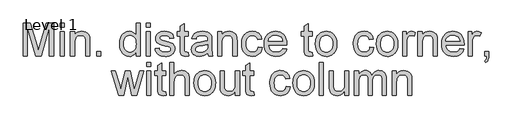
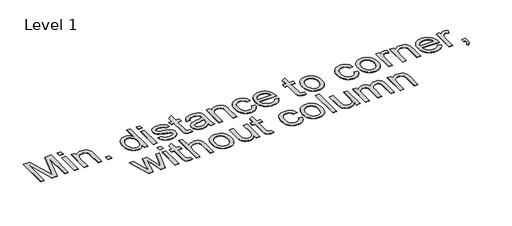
# One storey, part 57 of 80: 1 proxy.
"""IFC4 building model written with IfcOpenShell, lengths in millimetres."""

from ifc_helpers import new_model, si_unit, origin, origin_with_axes, place, context, project, spatial, polyline, outline, extrude, element, save

model = new_model("IFC4")

# Units and contexts
model_context = context("Model", 3, world=origin())
ifc_project = project(units=[si_unit("LENGTHUNIT", "METRE", prefix="MILLI")], contexts=[model_context])

# Site, building, storey
site = spatial("IfcSite", under=ifc_project)
building = spatial("IfcBuilding", under=site)
storey = spatial("IfcBuildingStorey", under=building, Name="Level 1", Elevation=0.0)

# Proxy
placement = place(None, origin())
element("IfcBuildingElementProxy", 1, Name="800mm Arial", ObjectType="800mm Arial", at=placement, inside=storey, context=model_context, shape_type="SweptSolid", body=[
    extrude(outline(polyline([(147445.3894532, 33134.3178049), (147445.3894532, 33933.7065032), (147617.3282821, 33933.7065032), (147780.875091, 33370.2701819), (147813.8576813, 33252.5867383), (147849.5725572, 33380.0283447), (148010.3870805, 33933.7065032), (148182.3259094, 33933.7065032), (148182.3259094, 33134.3178049), (148082.4023221, 33134.3178049), (148082.4023221, 33833.7829159), (147881.5793313, 33134.3178049), (147746.1360313, 33134.3178049), (147545.3130404, 33833.7829159), (147545.3130404, 33134.3178049), (147445.3894532, 33134.3178049)])), origin_with_axes(), (0.0, 0.0, 1.0), 5.0),
    extrude(outline(polyline([(148344.7017388, 33833.7829159), (148344.7017388, 33933.7065032), (148444.6253261, 33933.7065032), (148444.6253261, 33833.7829159), (148344.7017388, 33833.7829159)])), origin_with_axes(), (0.0, 0.0, 1.0), 5.0),
    extrude(outline(polyline([(148344.7017388, 33134.3178049), (148344.7017388, 33721.3688802), (148444.6253261, 33721.3688802), (148444.6253261, 33134.3178049), (148344.7017388, 33134.3178049)])), origin_with_axes(), (0.0, 0.0, 1.0), 5.0),
    extrude(outline(polyline([(148594.510707, 33134.3178049), (148594.510707, 33721.3688802), (148694.4342943, 33721.3688802), (148694.4342943, 33639.4003125), (148710.9194906, 33661.5391444), (148729.1489586, 33680.7261321), (148749.1226981, 33696.9612755), (148770.8407092, 33710.2445746), (148794.3029919, 33720.5760295), (148819.5095463, 33727.9556401), (148875.1554698, 33733.8593286), (148924.4097966, 33729.1022243), (148969.5169043, 33714.8309111), (149007.1346219, 33692.826254), (149033.9207789, 33664.8691175), (149052.0953571, 33631.0326879), (149063.8783387, 33591.3901514), (149067.8303947, 33553.4796889), (149069.1477467, 33494.7843395), (149069.1477467, 33134.3178049), (148969.2241594, 33134.3178049), (148969.2241594, 33481.3180748), (148966.3455013, 33532.9875469), (148957.7095272, 33569.72703), (148941.7793264, 33596.0496742), (148917.0179883, 33616.4686299), (148885.2795637, 33629.5689635), (148848.4181036, 33633.9357413), (148818.0763161, 33631.4840029), (148789.8935221, 33624.1287877), (148763.8697216, 33611.8700957), (148740.0049147, 33594.7079268), (148720.0677683, 33570.6906485), (148705.8269494, 33537.8666284), (148697.2824581, 33496.2358662), (148694.4342943, 33445.7983621), (148694.4342943, 33134.3178049), (148594.510707, 33134.3178049)])), origin_with_axes(), (0.0, 0.0, 1.0), 5.0),
    extrude(outline(polyline([(149231.523576, 33134.3178049), (149231.523576, 33234.2413922), (149331.4471633, 33234.2413922), (149331.4471633, 33134.3178049), (149231.523576, 33134.3178049)])), origin_with_axes(), (0.0, 0.0, 1.0), 5.0),
    extrude(outline(polyline([(150193.2881037, 33134.3178049), (150193.2881037, 33228.5816577), (150163.3915324, 33181.8766509), (150146.0738428, 33163.5282554), (150127.1765506, 33148.5159318), (150106.6996558, 33136.8396801), (150084.6431584, 33128.4995003), (150061.0070584, 33123.4953924), (150035.7913558, 33121.8273565), (150002.8087654, 33124.2425018), (149971.1923179, 33131.4879377), (149940.9420131, 33143.5636641), (149912.0578512, 33160.4696812), (149885.4424621, 33181.6997842), (149861.9984759, 33206.7477684), (149841.7258927, 33235.6136338), (149824.6247123, 33268.2973804), (149811.0486683, 33304.1769253), (149801.351494, 33342.6301857), (149795.5331894, 33383.6571615), (149793.5937545, 33427.2578528), (149795.3807181, 33470.0595944), (149800.7416088, 33510.8365173), (149809.6764266, 33549.5886214), (149822.1851716, 33586.3159068), (149838.2617448, 33619.9449754), (149857.9000475, 33649.4024294), (149881.1000796, 33674.6882688), (149907.8618412, 33695.8024936), (149937.2400101, 33712.4523589), (149968.2892644, 33724.3451199), (150001.0096042, 33731.4807764), (150035.4010293, 33733.8593286), (150060.5526939, 33732.157749), (150084.289425, 33727.0530101), (150106.6112224, 33718.5451118), (150127.5180863, 33706.6340544), (150164.1599877, 33675.3347471), (150193.2881037, 33635.8873739), (150193.2881037, 33933.7065032), (150293.211691, 33933.7065032), (150293.211691, 33134.3178049), (150193.2881037, 33134.3178049)]), holes=[polyline([(149893.5173418, 33427.6481793), (149896.3350113, 33379.192802), (149904.7880199, 33337.2631962), (149918.8763675, 33301.8593617), (149938.6000541, 33272.9812986), (149962.1538196, 33250.5680183), (149987.7324039, 33234.5585325), (150015.3358069, 33224.9528409), (150044.9640288, 33221.7509438), (150074.7325243, 33224.8064685), (150102.1712584, 33233.9730427), (150127.2802311, 33249.2506664), (150150.0594424, 33270.6393395), (150168.9719817, 33298.3098299), (150182.4809384, 33332.4329056), (150190.5863124, 33373.0085663), (150193.2881037, 33420.0368123), (150190.5375216, 33471.5965051), (150182.2857751, 33515.8131804), (150168.5328644, 33552.6868381), (150149.2787894, 33582.2174784), (150125.9994722, 33604.8442184), (150100.170835, 33621.0061756), (150071.7928777, 33630.7033499), (150040.8656004, 33633.9357413), (150010.6518888, 33630.8314258), (149983.0484857, 33621.5184791), (149958.0553912, 33605.9969014), (149935.6726052, 33584.2666926), (149917.2296775, 33555.8521422), (149904.0561577, 33520.2775399), (149896.1520458, 33477.5428856), (149893.5173418, 33427.6481793)])]), origin_with_axes(), (0.0, 0.0, 1.0), 5.0),
    extrude(outline(polyline([(150443.0970719, 33134.3178049), (150443.0970719, 33721.3688802), (150543.0206592, 33721.3688802), (150543.0206592, 33134.3178049), (150443.0970719, 33134.3178049)])), origin_with_axes(), (0.0, 0.0, 1.0), 5.0),
    extrude(outline(polyline([(150443.0970719, 33833.7829159), (150443.0970719, 33933.7065032), (150543.0206592, 33933.7065032), (150543.0206592, 33833.7829159), (150443.0970719, 33833.7829159)])), origin_with_axes(), (0.0, 0.0, 1.0), 5.0),
    extrude(outline(polyline([(150655.4346949, 33309.1840826), (150755.3582822, 33321.674531), (150761.3961455, 33298.8892209), (150771.1177152, 33278.9337779), (150784.5229914, 33261.8082021), (150801.611974, 33247.5124936), (150822.4334539, 33236.2418155), (150847.0362219, 33228.1913312), (150875.420278, 33223.3610406), (150907.5856222, 33221.7509438), (150939.7143733, 33223.2268659), (150967.4031603, 33227.6546323), (150990.6519833, 33235.0342429), (151009.4608421, 33245.3656978), (151023.9761093, 33257.6853783), (151034.3441573, 33271.029666), (151040.5649861, 33285.3985608), (151042.6385957, 33300.7920626), (151040.5527884, 33314.2827227), (151034.2953665, 33326.2608676), (151023.86633, 33336.7264972), (151009.2656788, 33345.6796116), (150971.8431244, 33358.3652233), (150906.4146427, 33374.173447), (150815.2246111, 33400.544882), (150755.943772, 33423.0618428), (150717.8625416, 33447.6280177), (150702.7556858, 33462.8934436), (150690.2713362, 33480.1470953), (150673.5116916, 33518.545466), (150667.9251433, 33560.7495202), (150672.4138982, 33599.4650312), (150685.8801629, 33635.2043025), (150707.1041671, 33666.5524006), (150734.8661403, 33692.0943917), (150762.4573457, 33708.170965), (150798.3917803, 33721.6616251), (150839.9371585, 33730.8099027), (150884.3611947, 33733.8593286), (150949.3993499, 33728.9558518), (151005.9479035, 33714.2454214), (151051.4209422, 33691.1673663), (151069.0344261, 33677.0302279), (151083.232553, 33661.1610156), (151104.3101847, 33622.0063873), (151117.5812862, 33571.4834993), (151017.6576989, 33558.9930509), (151012.8944956, 33575.6856081), (151005.0452734, 33590.4387306), (150994.1100322, 33603.2524181), (150980.088772, 33614.1266708), (150962.9205043, 33622.7931392), (150942.5442406, 33628.9834737), (150892.167725, 33633.9357413), (150834.7897276, 33629.2030324), (150813.2729786, 33623.2871462), (150796.5377293, 33615.0049055), (150775.0209803, 33594.5127635), (150769.6417931, 33583.095713), (150767.8487306, 33570.8980095), (150770.8249703, 33555.5289031), (150779.7536893, 33541.8186843), (150795.0252141, 33529.57219), (150817.0298713, 33519.7652363), (150903.0968673, 33498.4924414), (150991.3838455, 33472.3893558), (151049.7620546, 33451.4580966), (151088.501961, 33428.9655313), (151117.874031, 33398.1785276), (151128.6750975, 33379.6502159), (151136.390145, 33358.9995038), (151141.0191735, 33336.2263914), (151142.562183, 33311.3308785), (151140.750824, 33286.3255862), (151135.3167471, 33262.0521562), (151126.2599522, 33238.5105884), (151113.5804394, 33215.7008828), (151097.4855696, 33194.5317683), (151078.1827038, 33175.9119739), (151055.6718419, 33159.8414995), (151029.952984, 33146.3203451), (151001.7274981, 33135.6046626), (150971.696752, 33127.9506036), (150939.8607458, 33123.3581683), (150906.2194794, 33121.8273565), (150852.4398046, 33124.7792007), (150805.4664483, 33133.6347335), (150765.2994106, 33148.3939547), (150731.9386915, 33169.0568645), (150704.6890218, 33195.5258812), (150682.8551325, 33227.7034231), (150666.4370235, 33265.5894902), (150655.4346949, 33309.1840826)])), origin_with_axes(), (0.0, 0.0, 1.0), 5.0),
    extrude(outline(polyline([(151467.3138417, 33217.6525154), (151479.8042901, 33131.390356), (151440.2349399, 33124.2181063), (151405.0567629, 33121.8273565), (151357.0953926, 33125.9745757), (151321.3317259, 33138.4162333), (151296.0580842, 33157.5910232), (151279.566789, 33181.9376394), (151270.4916976, 33223.7513671), (151267.4666671, 33295.3274914), (151267.4666671, 33621.4452929), (151192.5239766, 33621.4452929), (151192.5239766, 33721.3688802), (151267.4666671, 33721.3688802), (151267.4666671, 33864.0332207), (151367.3902544, 33922.7773609), (151367.3902544, 33721.3688802), (151467.3138417, 33721.3688802), (151467.3138417, 33621.4452929), (151367.3902544, 33621.4452929), (151367.3902544, 33298.2549403), (151368.7076064, 33265.3699316), (151372.6596623, 33246.7318406), (151379.5635625, 33236.4125834), (151389.7364473, 33228.4840761), (151404.1541328, 33223.4342268), (151423.7924355, 33221.7509438), (151467.3138417, 33217.6525154)])), origin_with_axes(), (0.0, 0.0, 1.0), 5.0),
    extrude(outline(polyline([(151941.9508813, 33209.2604953), (151894.2090697, 33168.3250023), (151869.8075638, 33153.1632568), (151845.0523245, 33141.5388454), (151793.358457, 33126.7552287), (151738.0052784, 33121.8273565), (151693.5141547, 33124.7913984), (151654.4998, 33133.6835243), (151620.9622142, 33148.5037341), (151592.9013972, 33169.2520278), (151570.7442687, 33194.6110534), (151554.9177484, 33223.263459), (151545.4218362, 33255.2092445), (151542.2565322, 33290.44841), (151547.0380319, 33331.8718112), (151561.3825313, 33369.4895289), (151583.5091655, 33401.6914662), (151611.6370698, 33426.8675263), (151644.6928464, 33445.8959438), (151681.6030972, 33459.6549533), (151768.0604198, 33474.6825241), (151870.2283846, 33490.4907479), (151941.3653916, 33509.0312572), (151941.9508813, 33531.2798685), (151940.2310051, 33555.5045077), (151935.0713765, 33575.8746725), (151926.4719956, 33592.3903631), (151914.4328622, 33605.0515794), (151893.62358, 33617.6884002), (151868.276752, 33626.7147008), (151838.3923784, 33632.1304812), (151803.970459, 33633.9357413), (151744.4456658, 33629.1298461), (151721.4164016, 33623.1224772), (151702.8758922, 33614.7121606), (151687.6409605, 33603.2402204), (151674.5284292, 33588.0479807), (151663.5382983, 33569.1354413), (151654.6705679, 33546.5026025), (151554.7469806, 33558.9930509), (151572.092115, 33613.6387627), (151583.9665794, 33636.5704453), (151597.9756419, 33656.5746791), (151614.7230888, 33674.0539882), (151634.8127065, 33689.410897), (151658.244495, 33702.6454053), (151685.0184542, 33713.7575132), (151746.4216938, 33728.8338748), (151816.851234, 33733.8593286), (151884.4021161, 33729.4193645), (151937.9500346, 33716.0994723), (151978.3244332, 33696.0708431), (152006.3547559, 33671.5046682), (152024.9440561, 33641.1323864), (152036.9953872, 33603.6854366), (152040.6546983, 33569.1415402), (152041.8744686, 33516.2522977), (152041.8744686, 33391.9333034), (152043.1430298, 33283.6420914), (152046.9487133, 33218.3355868), (152054.4624987, 33175.4240658), (152066.8553654, 33134.3178049), (151966.9317782, 33134.3178049), (151950.9283911, 33169.0568645), (151941.9508813, 33209.2604953)]), holes=[polyline([(151941.9508813, 33409.1076699), (151874.8147211, 33392.4700023), (151780.7460315, 33378.4670387), (151728.9057915, 33370.8068808), (151694.7766171, 33362.2684884), (151672.4060288, 33351.1929736), (151655.8415474, 33335.9214488), (151645.5954764, 33317.6248935), (151642.1801194, 33297.4742872), (151644.0402692, 33281.9466107), (151649.6207186, 33267.7606815), (151658.9214675, 33254.9164996), (151671.9425161, 33243.4140652), (151688.5618871, 33233.9364496), (151708.6576037, 33227.1667241), (151759.2780733, 33221.7509438), (151812.9479688, 33227.7278185), (151837.4409575, 33235.1989119), (151860.3726401, 33245.6584427), (151898.8198017, 33272.0786685), (151925.5571678, 33303.5243482), (151937.4133356, 33335.9214488), (151941.3653916, 33380.8089977), (151941.9508813, 33409.1076699)])]), origin_with_axes(), (0.0, 0.0, 1.0), 5.0),
    extrude(outline(polyline([(152179.2694011, 33134.3178049), (152179.2694011, 33721.3688802), (152279.1929884, 33721.3688802), (152279.1929884, 33639.4003125), (152295.6781848, 33661.5391444), (152313.9076527, 33680.7261321), (152333.8813922, 33696.9612755), (152355.5994033, 33710.2445746), (152379.0616861, 33720.5760295), (152404.2682404, 33727.9556401), (152459.9141639, 33733.8593286), (152509.1684907, 33729.1022243), (152554.2755984, 33714.8309111), (152591.8933161, 33692.826254), (152618.679473, 33664.8691175), (152636.8540513, 33631.0326879), (152648.6370329, 33591.3901514), (152652.5890888, 33553.4796889), (152653.9064408, 33494.7843395), (152653.9064408, 33134.3178049), (152553.9828535, 33134.3178049), (152553.9828535, 33481.3180748), (152551.1041955, 33532.9875469), (152542.4682214, 33569.72703), (152526.5380206, 33596.0496742), (152501.7766824, 33616.4686299), (152470.0382578, 33629.5689635), (152433.1767978, 33633.9357413), (152402.8350102, 33631.4840029), (152374.6522162, 33624.1287877), (152348.6284158, 33611.8700957), (152324.7636088, 33594.7079268), (152304.8264624, 33570.6906485), (152290.5856435, 33537.8666284), (152282.0411522, 33496.2358662), (152279.1929884, 33445.7983621), (152279.1929884, 33134.3178049), (152179.2694011, 33134.3178049)])), origin_with_axes(), (0.0, 0.0, 1.0), 5.0),
    extrude(outline(polyline([(153166.0148257, 33346.6554279), (153265.938413, 33334.1649795), (153255.0702591, 33287.0147565), (153238.0788581, 33245.2925116), (153214.9642099, 33208.9982447), (153185.7263146, 33178.1319559), (153151.5971401, 33153.4986937), (153113.8086546, 33135.9035063), (153072.360858, 33125.3463939), (153027.2537503, 33121.8273565), (152971.2114015, 33126.7369321), (152920.9629618, 33141.4656591), (152876.5084313, 33166.0135375), (152837.84781, 33200.3805672), (152806.5546016, 33243.9202699), (152784.2023099, 33295.9861674), (152770.7909348, 33356.5782597), (152766.3204765, 33425.6965467), (152768.2294171, 33471.6391971), (152773.9562389, 33514.6178054), (152783.5009419, 33554.6323719), (152796.8635261, 33591.6828963), (152814.1354743, 33625.0253189), (152835.4082693, 33653.9155797), (152860.681911, 33678.3536787), (152889.9563994, 33698.339616), (152921.9082838, 33713.8794902), (152955.2141133, 33724.9794005), (152989.8738879, 33731.6393466), (153025.8876075, 33733.8593286), (153070.220161, 33730.8099027), (153110.3201114, 33721.6616251), (153146.1874586, 33706.4144957), (153177.8222027, 33685.0685145), (153204.6876447, 33658.1115897), (153226.2470857, 33626.0316294), (153242.5005256, 33588.8286337), (153253.4479645, 33546.5026025), (153153.5243773, 33534.012154), (153145.7239458, 33557.3524597), (153135.3985898, 33577.6067464), (153122.5483091, 33594.7750142), (153107.1731038, 33608.8572629), (153089.6633004, 33619.8290972), (153070.4092254, 33627.6661217), (153049.4108788, 33632.3683364), (153026.6682606, 33633.9357413), (152992.7159528, 33630.8497223), (152962.0936181, 33621.5916654), (152934.8012565, 33606.1615704), (152910.8388679, 33584.5594375), (152891.3286411, 33556.2851607), (152877.3927648, 33520.8386342), (152869.031239, 33478.2198581), (152866.2440638, 33428.4288323), (152868.9702505, 33377.8876477), (152877.1488107, 33334.7748646), (152890.7797444, 33299.090483), (152909.8630516, 33270.8345027), (152933.3497297, 33249.3604457), (152960.1907763, 33234.0218335), (152990.3861914, 33224.8186662), (153023.935975, 33221.7509438), (153050.9721848, 33223.6659832), (153075.6786333, 33229.4111016), (153098.0553205, 33238.9862988), (153118.1022462, 33252.391575), (153135.2583162, 33269.7733025), (153148.9624361, 33291.2778539), (153159.2146059, 33316.905229), (153166.0148257, 33346.6554279)])), origin_with_axes(), (0.0, 0.0, 1.0), 5.0),
    extrude(outline(polyline([(153764.3853699, 33309.1840826), (153862.3573246, 33296.6936342), (153847.3358527, 33257.453622), (153827.0571706, 33222.8731325), (153801.5212783, 33192.9521657), (153770.7281757, 33167.6907217), (153734.9950032, 33147.6254994), (153694.6389011, 33133.2931978), (153649.6598694, 33124.6938168), (153600.057908, 33121.8273565), (153538.0569809, 33126.7735252), (153482.8135817, 33141.6120316), (153434.3277101, 33166.3428755), (153392.5993664, 33200.9660569), (153359.043484, 33244.5179574), (153335.0749965, 33296.0349582), (153320.6939041, 33355.5170595), (153315.9002066, 33422.9642611), (153320.7426949, 33492.6985322), (153335.2701598, 33554.1627603), (153359.4826013, 33607.3569453), (153375.2206883, 33630.8527718), (153393.3800194, 33652.2810874), (153434.9985838, 33687.971568), (153482.3744643, 33713.4647683), (153535.5076609, 33728.7606886), (153594.3981735, 33733.8593286), (153651.3919433, 33728.7728863), (153702.9333395, 33713.5135591), (153749.0223623, 33688.0813473), (153789.6590116, 33652.4762507), (153822.8306663, 33607.6496902), (153846.5247054, 33554.5530868), (153860.7411289, 33493.1864403), (153865.4799367, 33423.5497509), (153864.8944469, 33396.6172215), (153415.8237939, 33396.6172215), (153421.6116042, 33356.7429287), (153433.1201375, 33321.8209035), (153450.3493937, 33291.8511459), (153473.2993729, 33266.833656), (153500.7015139, 33247.1099694), (153531.2872555, 33233.0216218), (153565.0565977, 33224.5686133), (153602.0095405, 33221.7509438), (153655.1915279, 33226.9715609), (153699.9814953, 33242.6334122), (153719.2294714, 33254.6237548), (153736.3794426, 33269.712314), (153751.4314087, 33287.89909), (153764.3853699, 33309.1840826)]), holes=[polyline([(153415.8237939, 33496.5408088), (153765.5563494, 33496.5408088), (153760.4211162, 33524.8150856), (153752.0412939, 33549.3324697), (153740.4168825, 33570.0929611), (153725.5478819, 33587.0965598), (153698.2982122, 33607.5887017), (153667.2916498, 33622.2259459), (153632.5281948, 33631.0082925), (153594.007847, 33633.9357413), (153558.872362, 33631.5998811), (153526.6521281, 33624.5923004), (153497.3471454, 33612.9129993), (153470.9574138, 33596.5619777), (153448.8124831, 33576.2954933), (153432.2419028, 33552.8698037), (153421.2456731, 33526.2849089), (153415.8237939, 33496.5408088)])]), origin_with_axes(), (0.0, 0.0, 1.0), 5.0),
    extrude(outline(polyline([(154490.0023573, 33217.6525154), (154502.4928057, 33131.390356), (154462.9234555, 33124.2181063), (154427.7452785, 33121.8273565), (154379.7839082, 33125.9745757), (154344.0202415, 33138.4162333), (154318.7465998, 33157.5910232), (154302.2553046, 33181.9376394), (154293.1802132, 33223.7513671), (154290.1551827, 33295.3274914), (154290.1551827, 33621.4452929), (154215.2124922, 33621.4452929), (154215.2124922, 33721.3688802), (154290.1551827, 33721.3688802), (154290.1551827, 33864.0332207), (154390.07877, 33922.7773609), (154390.07877, 33721.3688802), (154490.0023573, 33721.3688802), (154490.0023573, 33621.4452929), (154390.07877, 33621.4452929), (154390.07877, 33298.2549403), (154391.396122, 33265.3699316), (154395.3481779, 33246.7318406), (154402.2520781, 33236.4125834), (154412.4249629, 33228.4840761), (154426.8426484, 33223.4342268), (154446.4809511, 33221.7509438), (154490.0023573, 33217.6525154)])), origin_with_axes(), (0.0, 0.0, 1.0), 5.0),
    extrude(outline(polyline([(154564.9450478, 33427.8433425), (154570.3486304, 33503.8716286), (154577.1031088, 33537.942864), (154586.5593784, 33569.3854943), (154598.7174394, 33598.1995194), (154613.5772917, 33624.3849395), (154631.1389354, 33647.9417544), (154651.4023704, 33668.8699642), (154689.4836008, 33697.3028112), (154731.5168871, 33717.6119875), (154777.5022294, 33729.7974934), (154827.4396277, 33733.8593286), (154882.5671488, 33728.9131598), (154932.4130642, 33714.0746535), (154976.9773741, 33689.3438096), (155016.2600783, 33654.7206281), (155048.321742, 33611.3760887), (155071.2229304, 33560.4811707), (155084.9636434, 33502.0358742), (155089.543881, 33436.0401993), (155087.5190623, 33382.5532693), (155081.4446059, 33335.0920049), (155071.320512, 33293.656406), (155057.1467805, 33258.2464727), (155039.1002781, 33227.6607311), (155017.3578716, 33200.6977075), (154991.9195609, 33177.3574018), (154962.785346, 33157.639814), (154931.0896134, 33141.9718638), (154897.9667495, 33130.7804708), (154863.4167542, 33124.0656351), (154827.4396277, 33121.8273565), (154771.5070581, 33126.7552287), (154721.1976299, 33141.5388454), (154676.5113431, 33166.1782065), (154637.4481975, 33200.6733121), (154605.7280695, 33244.4386723), (154583.0708352, 33296.8887975), (154569.4764946, 33358.0236876), (154564.9450478, 33427.8433425)]), holes=[polyline([(154664.8686351, 33428.0385058), (154667.7594908, 33379.5709308), (154676.432058, 33337.6047318), (154690.8863367, 33302.1399088), (154711.1223268, 33273.1764618), (154735.7372925, 33250.6777977), (154763.3284979, 33234.6073233), (154793.895943, 33224.9650386), (154827.4396277, 33221.7509438), (154860.8125445, 33224.9833352), (154891.2580125, 33234.6805095), (154918.7760317, 33250.8424667), (154943.366602, 33273.4692067), (154963.6025921, 33302.7192998), (154978.0568708, 33338.751316), (154986.729438, 33381.5652554), (154989.6202938, 33431.1611179), (154986.7111415, 33478.0917822), (154977.9836846, 33518.9601879), (154963.4379231, 33553.7663349), (154943.0738571, 33582.5102233), (154918.391804, 33605.0088874), (154890.8920814, 33621.0793618), (154860.5746893, 33630.7216465), (154827.4396277, 33633.9357413), (154793.895943, 33630.7338442), (154763.3284979, 33621.1281526), (154735.7372925, 33605.1186668), (154711.1223268, 33582.7053865), (154690.8863367, 33553.8273234), (154676.432058, 33518.4234889), (154667.7594908, 33476.4938831), (154664.8686351, 33428.0385058)])]), origin_with_axes(), (0.0, 0.0, 1.0), 5.0),
    extrude(outline(polyline([(155888.9325794, 33346.6554279), (155988.8561667, 33334.1649795), (155977.9880128, 33287.0147565), (155960.9966118, 33245.2925116), (155937.8819636, 33208.9982447), (155908.6440683, 33178.1319559), (155874.5148938, 33153.4986937), (155836.7264083, 33135.9035063), (155795.2786117, 33125.3463939), (155750.1715041, 33121.8273565), (155694.1291552, 33126.7369321), (155643.8807155, 33141.4656591), (155599.426185, 33166.0135375), (155560.7655637, 33200.3805672), (155529.4723553, 33243.9202699), (155507.1200636, 33295.9861674), (155493.7086886, 33356.5782597), (155489.2382302, 33425.6965467), (155491.1471708, 33471.6391971), (155496.8739926, 33514.6178054), (155506.4186956, 33554.6323719), (155519.7812799, 33591.6828963), (155537.053228, 33625.0253189), (155558.326023, 33653.9155797), (155583.5996647, 33678.3536787), (155612.8741532, 33698.339616), (155644.8260376, 33713.8794902), (155678.131867, 33724.9794005), (155712.7916416, 33731.6393466), (155748.8053613, 33733.8593286), (155793.1379147, 33730.8099027), (155833.2378651, 33721.6616251), (155869.1052123, 33706.4144957), (155900.7399564, 33685.0685145), (155927.6053984, 33658.1115897), (155949.1648394, 33626.0316294), (155965.4182794, 33588.8286337), (155976.3657183, 33546.5026025), (155876.442131, 33534.012154), (155868.6416996, 33557.3524597), (155858.3163435, 33577.6067464), (155845.4660629, 33594.7750142), (155830.0908576, 33608.8572629), (155812.5810542, 33619.8290972), (155793.3269791, 33627.6661217), (155772.3286325, 33632.3683364), (155749.5860143, 33633.9357413), (155715.6337065, 33630.8497223), (155685.0113718, 33621.5916654), (155657.7190102, 33606.1615704), (155633.7566216, 33584.5594375), (155614.2463948, 33556.2851607), (155600.3105185, 33520.8386342), (155591.9489928, 33478.2198581), (155589.1618175, 33428.4288323), (155591.8880043, 33377.8876477), (155600.0665645, 33334.7748646), (155613.6974982, 33299.090483), (155632.7808053, 33270.8345027), (155656.2674835, 33249.3604457), (155683.1085301, 33234.0218335), (155713.3039452, 33224.8186662), (155746.8537287, 33221.7509438), (155773.8899386, 33223.6659832), (155798.5963871, 33229.4111016), (155820.9730742, 33238.9862988), (155841.0199999, 33252.391575), (155858.1760699, 33269.7733025), (155871.8801899, 33291.2778539), (155882.1323597, 33316.905229), (155888.9325794, 33346.6554279)])), origin_with_axes(), (0.0, 0.0, 1.0), 5.0),
    extrude(outline(polyline([(156051.3084087, 33427.8433425), (156056.7119914, 33503.8716286), (156063.4664697, 33537.942864), (156072.9227394, 33569.3854943), (156085.0808004, 33598.1995194), (156099.9406527, 33624.3849395), (156117.5022964, 33647.9417544), (156137.7657313, 33668.8699642), (156175.8469618, 33697.3028112), (156217.8802481, 33717.6119875), (156263.8655904, 33729.7974934), (156313.8029886, 33733.8593286), (156368.9305097, 33728.9131598), (156418.7764252, 33714.0746535), (156463.340735, 33689.3438096), (156502.6234392, 33654.7206281), (156534.685103, 33611.3760887), (156557.5862913, 33560.4811707), (156571.3270044, 33502.0358742), (156575.907242, 33436.0401993), (156573.8824232, 33382.5532693), (156567.8079669, 33335.0920049), (156557.683873, 33293.656406), (156543.5101415, 33258.2464727), (156525.4636391, 33227.6607311), (156503.7212326, 33200.6977075), (156478.2829219, 33177.3574018), (156449.148707, 33157.639814), (156417.4529744, 33141.9718638), (156384.3301104, 33130.7804708), (156349.7801152, 33124.0656351), (156313.8029886, 33121.8273565), (156257.8704191, 33126.7552287), (156207.5609909, 33141.5388454), (156162.8747041, 33166.1782065), (156123.8115585, 33200.6733121), (156092.0914305, 33244.4386723), (156069.4341962, 33296.8887975), (156055.8398556, 33358.0236876), (156051.3084087, 33427.8433425)]), holes=[polyline([(156151.231996, 33428.0385058), (156154.1228518, 33379.5709308), (156162.795419, 33337.6047318), (156177.2496977, 33302.1399088), (156197.4856878, 33273.1764618), (156222.1006535, 33250.6777977), (156249.6918589, 33234.6073233), (156280.2593039, 33224.9650386), (156313.8029886, 33221.7509438), (156347.1759055, 33224.9833352), (156377.6213735, 33234.6805095), (156405.1393927, 33250.8424667), (156429.729963, 33273.4692067), (156449.9659531, 33302.7192998), (156464.4202318, 33338.751316), (156473.092799, 33381.5652554), (156475.9836547, 33431.1611179), (156473.0745024, 33478.0917822), (156464.3470456, 33518.9601879), (156449.8012841, 33553.7663349), (156429.4372181, 33582.5102233), (156404.755165, 33605.0088874), (156377.2554424, 33621.0793618), (156346.9380503, 33630.7216465), (156313.8029886, 33633.9357413), (156280.2593039, 33630.7338442), (156249.6918589, 33621.1281526), (156222.1006535, 33605.1186668), (156197.4856878, 33582.7053865), (156177.2496977, 33553.8273234), (156162.795419, 33518.4234889), (156154.1228518, 33476.4938831), (156151.231996, 33428.0385058)])]), origin_with_axes(), (0.0, 0.0, 1.0), 5.0),
    extrude(outline(polyline([(156688.3212777, 33134.3178049), (156688.3212777, 33721.3688802), (156775.7544166, 33721.3688802), (156775.7544166, 33634.5212311), (156808.0539356, 33684.8733513), (156823.2522741, 33702.2916719), (156837.8163322, 33714.5381662), (156867.6763104, 33729.029038), (156900.2685742, 33733.8593286), (156925.0543078, 33731.9320915), (156950.0352046, 33726.15038), (156975.2112647, 33716.5141942), (157000.582488, 33703.0235341), (156967.2095712, 33613.4435994), (156932.080185, 33628.8127059), (156896.9507989, 33633.9357413), (156867.115216, 33629.0078691), (156840.4510361, 33614.2242524), (156818.9098917, 33590.70708), (156804.4434153, 33559.5785406), (156792.2945026, 33503.7618493), (156788.244865, 33442.8709133), (156788.244865, 33134.3178049), (156688.3212777, 33134.3178049)])), origin_with_axes(), (0.0, 0.0, 1.0), 5.0),
    extrude(outline(polyline([(157063.0347301, 33134.3178049), (157063.0347301, 33721.3688802), (157162.9583174, 33721.3688802), (157162.9583174, 33639.4003125), (157179.4435137, 33661.5391444), (157197.6729816, 33680.7261321), (157217.6467211, 33696.9612755), (157239.3647323, 33710.2445746), (157262.827015, 33720.5760295), (157288.0335693, 33727.9556401), (157343.6794928, 33733.8593286), (157392.9338197, 33729.1022243), (157438.0409273, 33714.8309111), (157475.658645, 33692.826254), (157502.4448019, 33664.8691175), (157520.6193802, 33631.0326879), (157532.4023618, 33591.3901514), (157536.3544177, 33553.4796889), (157537.6717697, 33494.7843395), (157537.6717697, 33134.3178049), (157437.7481824, 33134.3178049), (157437.7481824, 33481.3180748), (157434.8695244, 33532.9875469), (157426.2335503, 33569.72703), (157410.3033495, 33596.0496742), (157385.5420113, 33616.4686299), (157353.8035868, 33629.5689635), (157316.9421267, 33633.9357413), (157286.6003392, 33631.4840029), (157258.4175452, 33624.1287877), (157232.3937447, 33611.8700957), (157208.5289378, 33594.7079268), (157188.5917913, 33570.6906485), (157174.3509725, 33537.8666284), (157165.8064811, 33496.2358662), (157162.9583174, 33445.7983621), (157162.9583174, 33134.3178049), (157063.0347301, 33134.3178049)])), origin_with_axes(), (0.0, 0.0, 1.0), 5.0),
    extrude(outline(polyline([(158086.0805203, 33309.1840826), (158184.052475, 33296.6936342), (158169.0310031, 33257.453622), (158148.752321, 33222.8731325), (158123.2164287, 33192.9521657), (158092.4233261, 33167.6907217), (158056.6901536, 33147.6254994), (158016.3340515, 33133.2931978), (157971.3550198, 33124.6938168), (157921.7530584, 33121.8273565), (157859.7521314, 33126.7735252), (157804.5087321, 33141.6120316), (157756.0228606, 33166.3428755), (157714.2945168, 33200.9660569), (157680.7386344, 33244.5179574), (157656.770147, 33296.0349582), (157642.3890545, 33355.5170595), (157637.595357, 33422.9642611), (157642.4378453, 33492.6985322), (157656.9653102, 33554.1627603), (157681.1777517, 33607.3569453), (157696.9158387, 33630.8527718), (157715.0751698, 33652.2810874), (157756.6937343, 33687.971568), (157804.0696148, 33713.4647683), (157857.2028113, 33728.7606886), (157916.0933239, 33733.8593286), (157973.0870937, 33728.7728863), (158024.6284899, 33713.5135591), (158070.7175127, 33688.0813473), (158111.354162, 33652.4762507), (158144.5258167, 33607.6496902), (158168.2198558, 33554.5530868), (158182.4362793, 33493.1864403), (158187.1750871, 33423.5497509), (158186.5895974, 33396.6172215), (157737.5189443, 33396.6172215), (157743.3067546, 33356.7429287), (157754.8152879, 33321.8209035), (157772.0445441, 33291.8511459), (157794.9945233, 33266.833656), (157822.3966643, 33247.1099694), (157852.9824059, 33233.0216218), (157886.7517481, 33224.5686133), (157923.7046909, 33221.7509438), (157976.8866783, 33226.9715609), (158021.6766457, 33242.6334122), (158040.9246218, 33254.6237548), (158058.074593, 33269.712314), (158073.1265591, 33287.89909), (158086.0805203, 33309.1840826)]), holes=[polyline([(157737.5189443, 33496.5408088), (158087.2514998, 33496.5408088), (158082.1162666, 33524.8150856), (158073.7364443, 33549.3324697), (158062.1120329, 33570.0929611), (158047.2430323, 33587.0965598), (158019.9933626, 33607.5887017), (157988.9868002, 33622.2259459), (157954.2233452, 33631.0082925), (157915.7029974, 33633.9357413), (157880.5675124, 33631.5998811), (157848.3472786, 33624.5923004), (157819.0422958, 33612.9129993), (157792.6525642, 33596.5619777), (157770.5076335, 33576.2954933), (157753.9370533, 33552.8698037), (157742.9408235, 33526.2849089), (157737.5189443, 33496.5408088)])]), origin_with_axes(), (0.0, 0.0, 1.0), 5.0),
    extrude(outline(polyline([(158287.0986744, 33134.3178049), (158287.0986744, 33721.3688802), (158374.5318133, 33721.3688802), (158374.5318133, 33634.5212311), (158406.8313322, 33684.8733513), (158422.0296708, 33702.2916719), (158436.5937288, 33714.5381662), (158466.4537071, 33729.029038), (158499.0459709, 33733.8593286), (158523.8317045, 33731.9320915), (158548.8126013, 33726.15038), (158573.9886614, 33716.5141942), (158599.3598847, 33703.0235341), (158565.9869679, 33613.4435994), (158530.8575817, 33628.8127059), (158495.7281955, 33633.9357413), (158465.8926127, 33629.0078691), (158439.2284328, 33614.2242524), (158417.6872884, 33590.70708), (158403.220812, 33559.5785406), (158391.0718993, 33503.7618493), (158387.0222617, 33442.8709133), (158387.0222617, 33134.3178049), (158287.0986744, 33134.3178049)])), origin_with_axes(), (0.0, 0.0, 1.0), 5.0),
    extrude(outline(polyline([(158686.7930236, 33134.3178049), (158686.7930236, 33234.2413922), (158786.7166109, 33234.2413922), (158786.7166109, 33134.3178049), (158782.227856, 33077.1593661), (158768.7615913, 33032.1498401), (158758.4667295, 33013.7861975), (158745.5371638, 32997.6303391), (158729.9728941, 32983.6822652), (158711.7739204, 32971.9419755), (158686.7930236, 33009.4133208), (158708.4561451, 33027.5147128), (158723.4837158, 33052.5444004), (158732.607598, 33087.2346693), (158736.559654, 33134.3178049), (158686.7930236, 33134.3178049)])), origin_with_axes(), (0.0, 0.0, 1.0), 5.0),
    extrude(outline(polyline([(149766.0757354, 32173.549657), (149587.5013557, 32760.6007323), (149691.3282082, 32760.6007323), (149792.6179383, 32418.0892173), (149822.868243, 32295.7218555), (149847.6539766, 32413.6004624), (149928.2564015, 32760.6007323), (150047.3059879, 32760.6007323), (150127.5180863, 32414.5762787), (150149.5715343, 32307.8219774), (150181.1879818, 32420.4311764), (150282.6728751, 32760.6007323), (150386.8900541, 32760.6007323), (150206.9495317, 32173.549657), (150086.1434759, 32173.549657), (150009.4443161, 32517.8176413), (149987.1957049, 32625.1574324), (149888.2479339, 32173.549657), (149766.0757354, 32173.549657)])), origin_with_axes(), (0.0, 0.0, 1.0), 5.0),
    extrude(outline(polyline([(150455.5875203, 32873.014768), (150455.5875203, 32972.9383553), (150555.5111076, 32972.9383553), (150555.5111076, 32873.014768), (150455.5875203, 32873.014768)])), origin_with_axes(), (0.0, 0.0, 1.0), 5.0),
    extrude(outline(polyline([(150455.5875203, 32173.549657), (150455.5875203, 32760.6007323), (150555.5111076, 32760.6007323), (150555.5111076, 32173.549657), (150455.5875203, 32173.549657)])), origin_with_axes(), (0.0, 0.0, 1.0), 5.0),
    extrude(outline(polyline([(150917.7341116, 32256.8843675), (150930.22456, 32170.6222082), (150890.6552097, 32163.4499585), (150855.4770328, 32161.0592086), (150807.5156625, 32165.2064278), (150771.7519958, 32177.6480854), (150746.4783541, 32196.8228753), (150729.9870589, 32221.1694916), (150720.9119675, 32262.9832193), (150717.886937, 32334.5593436), (150717.886937, 32660.677145), (150642.9442465, 32660.677145), (150642.9442465, 32760.6007323), (150717.886937, 32760.6007323), (150717.886937, 32903.2650728), (150817.8105243, 32962.009213), (150817.8105243, 32760.6007323), (150917.7341116, 32760.6007323), (150917.7341116, 32660.677145), (150817.8105243, 32660.677145), (150817.8105243, 32337.4867924), (150819.1278763, 32304.6017837), (150823.0799322, 32285.9636927), (150829.9838324, 32275.6444355), (150840.1567171, 32267.7159282), (150854.5744027, 32262.666079), (150874.2127054, 32260.9827959), (150917.7341116, 32256.8843675)])), origin_with_axes(), (0.0, 0.0, 1.0), 5.0),
    extrude(outline(polyline([(151017.6576989, 32173.549657), (151017.6576989, 32972.9383553), (151117.5812862, 32972.9383553), (151117.5812862, 32679.0224912), (151154.2841761, 32720.1775429), (151195.5002163, 32749.5740084), (151241.2294068, 32767.2118877), (151291.4717476, 32773.0911808), (151322.7100664, 32771.4871827), (151351.8259847, 32766.6751887), (151378.8195026, 32758.6551986), (151403.6906201, 32747.4272125), (151425.8050566, 32733.3693592), (151444.5285315, 32716.8597675), (151459.8610448, 32697.8984374), (151471.8025966, 32676.4853688), (151480.7679087, 32651.297111), (151487.171703, 32621.0102132), (151492.2947385, 32545.1404972), (151492.2947385, 32173.549657), (151392.3711512, 32173.549657), (151392.3711512, 32534.7968447), (151390.3829255, 32568.5356926), (151384.4182485, 32597.3466683), (151374.4771201, 32621.2297718), (151360.5595404, 32640.1850031), (151342.9948473, 32654.6148864), (151322.1123789, 32664.9219459), (151297.9121351, 32671.1061816), (151270.3941159, 32673.1675935), (151228.1656663, 32667.6054407), (151188.5231299, 32650.9189822), (151170.7266804, 32638.8066626), (151155.686912, 32624.7183151), (151143.4038245, 32608.6539395), (151133.8774181, 32590.613536), (151121.6553191, 32545.2868697), (151117.5812862, 32485.4205408), (151117.5812862, 32173.549657), (151017.6576989, 32173.549657)])), origin_with_axes(), (0.0, 0.0, 1.0), 5.0),
    extrude(outline(polyline([(151604.7087742, 32467.0751947), (151610.1123569, 32543.1034808), (151616.8668352, 32577.1747161), (151626.3231049, 32608.6173464), (151638.4811659, 32637.4313716), (151653.3410182, 32663.6167916), (151670.9026618, 32687.1736065), (151691.1660968, 32708.1018164), (151729.2473272, 32736.5346633), (151771.2806136, 32756.8438397), (151817.2659559, 32769.0293455), (151867.2033541, 32773.0911808), (151922.3308752, 32768.145012), (151972.1767907, 32753.3065056), (152016.7411005, 32728.5756617), (152056.0238047, 32693.9524803), (152088.0854684, 32650.6079408), (152110.9866568, 32599.7130228), (152124.7273698, 32541.2677264), (152129.3076075, 32475.2720514), (152127.2827887, 32421.7851215), (152121.2083324, 32374.3238571), (152111.0842384, 32332.8882582), (152096.9105069, 32297.4783248), (152078.8640046, 32266.8925832), (152057.121598, 32239.9295596), (152031.6832873, 32216.5892539), (152002.5490724, 32196.8716661), (151970.8533398, 32181.203716), (151937.7304759, 32170.012323), (151903.1804807, 32163.2974872), (151867.2033541, 32161.0592086), (151811.2707846, 32165.9870808), (151760.9613564, 32180.7706975), (151716.2750695, 32205.4100586), (151677.211924, 32239.9051642), (151645.491796, 32283.6705244), (151622.8345617, 32336.1206496), (151609.2402211, 32397.2555397), (151604.7087742, 32467.0751947)]), holes=[polyline([(151704.6323615, 32467.2703579), (151707.5232172, 32418.802783), (151716.1957845, 32376.836584), (151730.6500631, 32341.371761), (151750.8860533, 32312.4083139), (151775.501019, 32289.9096498), (151803.0922244, 32273.8391754), (151833.6596694, 32264.1968908), (151867.2033541, 32260.9827959), (151900.576271, 32264.2151873), (151931.021739, 32273.9123616), (151958.5397581, 32290.0743188), (151983.1303284, 32312.7010588), (152003.3663186, 32341.9511519), (152017.8205973, 32377.9831681), (152026.4931645, 32420.7971075), (152029.3840202, 32470.39297), (152026.4748679, 32517.3236343), (152017.747411, 32558.19204), (152003.2016496, 32592.998187), (151982.8375835, 32621.7420754), (151958.1555305, 32644.2407395), (151930.6558079, 32660.3112139), (151900.3384157, 32669.9534986), (151867.2033541, 32673.1675935), (151833.6596694, 32669.9656963), (151803.0922244, 32660.3600048), (151775.501019, 32644.3505189), (151750.8860533, 32621.9372386), (151730.6500631, 32593.0591755), (151716.1957845, 32557.6553411), (151707.5232172, 32515.7257352), (151704.6323615, 32467.2703579)])]), origin_with_axes(), (0.0, 0.0, 1.0), 5.0),
    extrude(outline(polyline([(152616.4350956, 32173.549657), (152616.4350956, 32274.4490606), (152599.1021588, 32247.873314), (152580.2811023, 32224.8410003), (152559.9719259, 32205.3521195), (152538.1746297, 32189.4066716), (152514.8892137, 32177.0046565), (152490.1156778, 32168.1460743), (152463.8540221, 32162.830925), (152436.1042466, 32161.0592086), (152387.4354095, 32166.0358716), (152342.1331386, 32180.9658607), (152304.1250944, 32203.4096352), (152277.3389375, 32230.9276544), (152259.3107317, 32264.3493621), (152247.5765409, 32304.5042021), (152243.1853676, 32342.3658738), (152241.7216432, 32397.4019121), (152241.7216432, 32760.6007323), (152341.6452305, 32760.6007323), (152341.6452305, 32444.4362569), (152343.1577457, 32381.2033618), (152347.6952914, 32342.5610371), (152353.678265, 32324.5511278), (152362.2593495, 32308.578235), (152373.4385447, 32294.6423588), (152387.2158509, 32282.743499), (152403.1765459, 32273.2231914), (152420.905908, 32266.4229717), (152461.6706332, 32260.9827959), (152504.7773175, 32266.5449487), (152545.1029253, 32283.2314071), (152563.1494277, 32295.3620233), (152578.3538651, 32309.5052605), (152590.7162377, 32325.6611188), (152600.2365453, 32343.8295982), (152612.385458, 32390.8395476), (152616.4350956, 32455.170236), (152616.4350956, 32760.6007323), (152716.3586828, 32760.6007323), (152716.3586828, 32173.549657), (152616.4350956, 32173.549657)])), origin_with_axes(), (0.0, 0.0, 1.0), 5.0),
    extrude(outline(polyline([(153066.0912384, 32256.8843675), (153078.5816868, 32170.6222082), (153039.0123365, 32163.4499585), (153003.8341596, 32161.0592086), (152955.8727893, 32165.2064278), (152920.1091226, 32177.6480854), (152894.8354809, 32196.8228753), (152878.3441857, 32221.1694916), (152869.2690943, 32262.9832193), (152866.2440638, 32334.5593436), (152866.2440638, 32660.677145), (152791.3013733, 32660.677145), (152791.3013733, 32760.6007323), (152866.2440638, 32760.6007323), (152866.2440638, 32903.2650728), (152966.1676511, 32962.009213), (152966.1676511, 32760.6007323), (153066.0912384, 32760.6007323), (153066.0912384, 32660.677145), (152966.1676511, 32660.677145), (152966.1676511, 32337.4867924), (152967.4850031, 32304.6017837), (152971.437059, 32285.9636927), (152978.3409592, 32275.6444355), (152988.5138439, 32267.7159282), (153002.9315295, 32262.666079), (153022.5698322, 32260.9827959), (153066.0912384, 32256.8843675)])), origin_with_axes(), (0.0, 0.0, 1.0), 5.0),
    extrude(outline(polyline([(153852.9894883, 32385.88728), (153952.9130756, 32373.3968316), (153942.0449218, 32326.2466086), (153925.0535207, 32284.5243637), (153901.9388726, 32248.2300968), (153872.7009772, 32217.3638081), (153838.5718027, 32192.7305458), (153800.7833172, 32175.1353585), (153759.3355206, 32164.5782461), (153714.228413, 32161.0592086), (153658.1860641, 32165.9687843), (153607.9376244, 32180.6975113), (153563.4830939, 32205.2453896), (153524.8224726, 32239.6124193), (153493.5292642, 32283.152122), (153471.1769725, 32335.2180195), (153457.7655975, 32395.8101118), (153453.2951391, 32464.9283988), (153455.2040797, 32510.8710492), (153460.9309015, 32553.8496576), (153470.4756045, 32593.864224), (153483.8381888, 32630.9147484), (153501.110137, 32664.257171), (153522.3829319, 32693.1474318), (153547.6565736, 32717.5855309), (153576.9310621, 32737.5714681), (153608.8829465, 32753.1113424), (153642.1887759, 32764.2112526), (153676.8485505, 32770.8711987), (153712.8622702, 32773.0911808), (153757.1948237, 32770.0417549), (153797.294774, 32760.8934772), (153833.1621212, 32745.6463478), (153864.7968653, 32724.3003666), (153891.6623073, 32697.3434419), (153913.2217483, 32665.2634816), (153929.4751883, 32628.0604858), (153940.4226272, 32585.7344546), (153840.4990399, 32573.2440062), (153832.6986085, 32596.5843119), (153822.3732524, 32616.8385986), (153809.5229718, 32634.0068663), (153794.1477665, 32648.089115), (153776.6379631, 32659.0609493), (153757.3838881, 32666.8979738), (153736.3855414, 32671.6001886), (153713.6429232, 32673.1675935), (153679.6906154, 32670.0815745), (153649.0682807, 32660.8235175), (153621.7759191, 32645.3934225), (153597.8135305, 32623.7912896), (153578.3033037, 32595.5170128), (153564.3674274, 32560.0704864), (153556.0059017, 32517.4517102), (153553.2187264, 32467.6606844), (153555.9449132, 32417.1194999), (153564.1234734, 32374.0067168), (153577.7544071, 32338.3223351), (153596.8377142, 32310.0663549), (153620.3243924, 32288.5922978), (153647.165439, 32273.2536856), (153677.3608541, 32264.0505183), (153710.9106376, 32260.9827959), (153737.9468475, 32262.8978353), (153762.653296, 32268.6429537), (153785.0299831, 32278.218151), (153805.0769088, 32291.6234271), (153822.2329789, 32309.0051547), (153835.9370988, 32330.509706), (153846.1892686, 32356.1370811), (153852.9894883, 32385.88728)])), origin_with_axes(), (0.0, 0.0, 1.0), 5.0),
    extrude(outline(polyline([(154015.3653177, 32467.0751947), (154020.7689003, 32543.1034808), (154027.5233786, 32577.1747161), (154036.9796483, 32608.6173464), (154049.1377093, 32637.4313716), (154063.9975616, 32663.6167916), (154081.5592053, 32687.1736065), (154101.8226403, 32708.1018164), (154139.9038707, 32736.5346633), (154181.937157, 32756.8438397), (154227.9224993, 32769.0293455), (154277.8598976, 32773.0911808), (154332.9874186, 32768.145012), (154382.8333341, 32753.3065056), (154427.3976439, 32728.5756617), (154466.6803481, 32693.9524803), (154498.7420119, 32650.6079408), (154521.6432002, 32599.7130228), (154535.3839133, 32541.2677264), (154539.9641509, 32475.2720514), (154537.9393322, 32421.7851215), (154531.8648758, 32374.3238571), (154521.7407819, 32332.8882582), (154507.5670504, 32297.4783248), (154489.520548, 32266.8925832), (154467.7781415, 32239.9295596), (154442.3398308, 32216.5892539), (154413.2056159, 32196.8716661), (154381.5098833, 32181.203716), (154348.3870193, 32170.012323), (154313.8370241, 32163.2974872), (154277.8598976, 32161.0592086), (154221.927328, 32165.9870808), (154171.6178998, 32180.7706975), (154126.931613, 32205.4100586), (154087.8684674, 32239.9051642), (154056.1483394, 32283.6705244), (154033.4911051, 32336.1206496), (154019.8967645, 32397.2555397), (154015.3653177, 32467.0751947)]), holes=[polyline([(154115.2889049, 32467.2703579), (154118.1797607, 32418.802783), (154126.8523279, 32376.836584), (154141.3066066, 32341.371761), (154161.5425967, 32312.4083139), (154186.1575624, 32289.9096498), (154213.7487678, 32273.8391754), (154244.3162129, 32264.1968908), (154277.8598976, 32260.9827959), (154311.2328144, 32264.2151873), (154341.6782824, 32273.9123616), (154369.1963016, 32290.0743188), (154393.7868719, 32312.7010588), (154414.022862, 32341.9511519), (154428.4771407, 32377.9831681), (154437.1497079, 32420.7971075), (154440.0405636, 32470.39297), (154437.1314114, 32517.3236343), (154428.4039545, 32558.19204), (154413.858193, 32592.998187), (154393.494127, 32621.7420754), (154368.8120739, 32644.2407395), (154341.3123513, 32660.3112139), (154310.9949592, 32669.9534986), (154277.8598976, 32673.1675935), (154244.3162129, 32669.9656963), (154213.7487678, 32660.3600048), (154186.1575624, 32644.3505189), (154161.5425967, 32621.9372386), (154141.3066066, 32593.0591755), (154126.8523279, 32557.6553411), (154118.1797607, 32515.7257352), (154115.2889049, 32467.2703579)])]), origin_with_axes(), (0.0, 0.0, 1.0), 5.0),
    extrude(outline(polyline([(154652.3781866, 32173.549657), (154652.3781866, 32972.9383553), (154752.3017739, 32972.9383553), (154752.3017739, 32173.549657), (154652.3781866, 32173.549657)])), origin_with_axes(), (0.0, 0.0, 1.0), 5.0),
    extrude(outline(polyline([(155276.9006072, 32173.549657), (155276.9006072, 32274.4490606), (155259.5676705, 32247.873314), (155240.746614, 32224.8410003), (155220.4374376, 32205.3521195), (155198.6401414, 32189.4066716), (155175.3547254, 32177.0046565), (155150.5811895, 32168.1460743), (155124.3195338, 32162.830925), (155096.5697583, 32161.0592086), (155047.9009212, 32166.0358716), (155002.5986503, 32180.9658607), (154964.5906061, 32203.4096352), (154937.8044492, 32230.9276544), (154919.7762434, 32264.3493621), (154908.0420526, 32304.5042021), (154903.6508793, 32342.3658738), (154902.1871549, 32397.4019121), (154902.1871549, 32760.6007323), (155002.1107422, 32760.6007323), (155002.1107422, 32444.4362569), (155003.6232574, 32381.2033618), (155008.1608031, 32342.5610371), (155014.1437767, 32324.5511278), (155022.7248611, 32308.578235), (155033.9040564, 32294.6423588), (155047.6813625, 32282.743499), (155063.6420576, 32273.2231914), (155081.3714197, 32266.4229717), (155122.1361449, 32260.9827959), (155165.2428291, 32266.5449487), (155205.568437, 32283.2314071), (155223.6149394, 32295.3620233), (155238.8193768, 32309.5052605), (155251.1817493, 32325.6611188), (155260.7020569, 32343.8295982), (155272.8509697, 32390.8395476), (155276.9006072, 32455.170236), (155276.9006072, 32760.6007323), (155376.8241945, 32760.6007323), (155376.8241945, 32173.549657), (155276.9006072, 32173.549657)])), origin_with_axes(), (0.0, 0.0, 1.0), 5.0),
    extrude(outline(polyline([(155514.219127, 32173.549657), (155514.219127, 32760.6007323), (155614.1427143, 32760.6007323), (155614.1427143, 32663.9949204), (155644.1978558, 32708.3701658), (155662.4456203, 32726.9533672), (155682.8401806, 32743.1336209), (155705.0521987, 32756.2400533), (155728.7523367, 32765.6017908), (155753.9405945, 32771.2188333), (155780.6169721, 32773.0911808), (155809.7816812, 32771.1822402), (155836.1897093, 32765.4554183), (155859.8410565, 32755.9107153), (155880.7357226, 32742.5481311), (155898.8127192, 32725.7457945), (155914.0110578, 32705.8818343), (155926.3307384, 32682.9562505), (155935.7717609, 32656.9690432), (155972.1941037, 32707.7724784), (155992.3264133, 32727.7309708), (156013.7394819, 32744.0606464), (156036.4333093, 32756.7615052), (156060.4078956, 32765.8335472), (156085.6632407, 32771.2767724), (156112.1993447, 32773.0911808), (156152.2017135, 32770.0722491), (156187.3128031, 32761.0154543), (156217.5326136, 32745.9207961), (156242.8611449, 32724.7882748), (156262.8836753, 32697.3739361), (156277.1854827, 32663.433826), (156285.7665671, 32622.9679446), (156288.6269286, 32575.9762918), (156288.6269286, 32173.549657), (156188.7033413, 32173.549657), (156188.7033413, 32533.0403753), (156186.3857776, 32582.880192), (156179.4330866, 32616.4726675), (156166.4059392, 32639.4775363), (156145.8650065, 32657.5545329), (156119.4447806, 32669.2643283), (156088.779754, 32673.1675935), (156060.4627852, 32670.6670642), (156034.6463457, 32663.1654766), (156011.3304354, 32650.6628305), (155990.5150544, 32633.1591259), (155973.3955775, 32610.1420593), (155961.1673797, 32581.0993272), (155953.830461, 32546.0309296), (155951.3848214, 32504.9368664), (155951.3848214, 32173.549657), (155851.4612342, 32173.549657), (155851.4612342, 32544.164681), (155850.0158063, 32574.4393811), (155845.6795227, 32600.6644437), (155838.4523833, 32622.8398687), (155828.3343883, 32640.9656561), (155814.9230132, 32655.0540037), (155797.815734, 32665.1171091), (155777.0125507, 32671.1549724), (155752.5134631, 32673.1675935), (155714.0175108, 32667.8006039), (155678.546589, 32651.6996353), (155662.7383652, 32639.7214904), (155649.2721005, 32625.255014), (155638.1477949, 32608.3002061), (155629.3654483, 32588.8570667), (155617.9483978, 32538.3585741), (155614.1427143, 32469.612317), (155614.1427143, 32173.549657), (155514.219127, 32173.549657)])), origin_with_axes(), (0.0, 0.0, 1.0), 5.0),
    extrude(outline(polyline([(156438.5123095, 32173.549657), (156438.5123095, 32760.6007323), (156538.4358968, 32760.6007323), (156538.4358968, 32678.6321646), (156554.9210931, 32700.7709965), (156573.150561, 32719.9579842), (156593.1243006, 32736.1931276), (156614.8423117, 32749.4764267), (156638.3045944, 32759.8078816), (156663.5111488, 32767.1874922), (156719.1570722, 32773.0911808), (156768.4113991, 32768.3340764), (156813.5185067, 32754.0627633), (156851.1362244, 32732.0581061), (156877.9223814, 32704.1009696), (156896.0969596, 32670.26454), (156907.8799412, 32630.6220036), (156911.8319972, 32592.711541), (156913.1493491, 32534.0161916), (156913.1493491, 32173.549657), (156813.2257618, 32173.549657), (156813.2257618, 32520.5499269), (156810.3471038, 32572.2193991), (156801.7111297, 32608.9588821), (156785.7809289, 32635.2815263), (156761.0195908, 32655.700482), (156729.2811662, 32668.8008156), (156692.4197061, 32673.1675935), (156662.0779186, 32670.7158551), (156633.8951246, 32663.3606398), (156607.8713241, 32651.1019478), (156584.0065172, 32633.9397789), (156564.0693708, 32609.9225007), (156549.8285519, 32577.0984805), (156541.2840606, 32535.4677183), (156538.4358968, 32485.0302143), (156538.4358968, 32173.549657), (156438.5123095, 32173.549657)])), origin_with_axes(), (0.0, 0.0, 1.0), 5.0),
])

save(model, "model.ifc")
